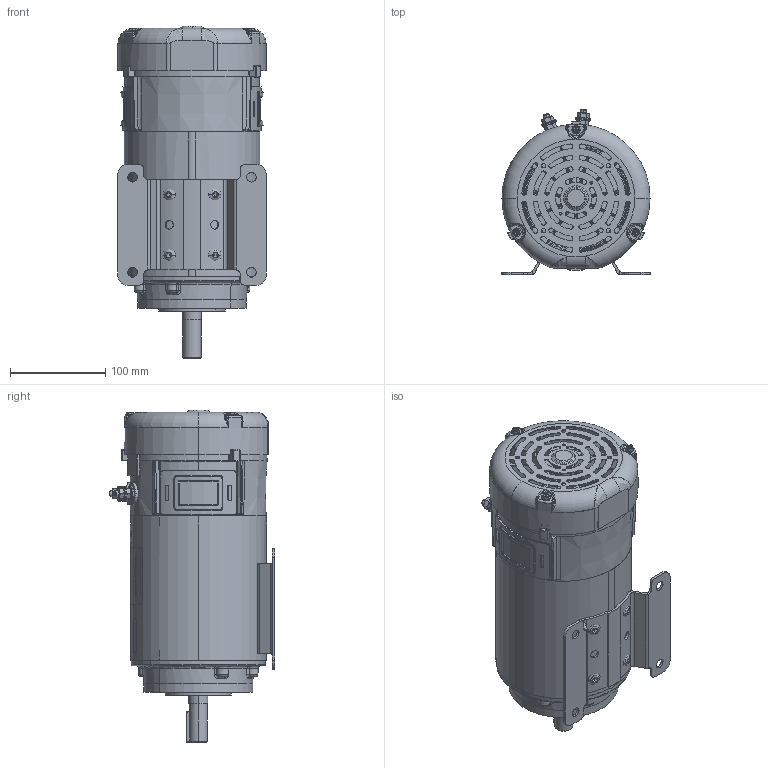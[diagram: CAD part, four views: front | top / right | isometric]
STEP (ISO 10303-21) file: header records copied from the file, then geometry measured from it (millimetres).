
FILE_DESCRIPTION (( 'STEP AP203' ), '1' );
FILE_NAME ('031910-108456_Rev01.STEP', '2018-03-21T08:40:14', ( '' ), ( '' ), 'SwSTEP 2.0', 'SolidWorks 2015', '' );
FILE_SCHEMA (( 'CONFIG_CONTROL_DESIGN' ));
Length unit declared in the file: inch
Products named in the file (1): 031910-108456_Rev01
Bounding box: 155.96 x 174.02 x 349.27 mm (x, y, z)
Volume: 1191188.3 mm3; surface area: 554020 mm2
Topology: 47 solids, 47 shells, 4226 faces, 10402 edges, 6221 vertices
Faces by surface type: cylinder 1235, bspline 1089, plane 1068, cone 387, torus 336, sphere 111
Entity records: 162154 total; most frequent: CARTESIAN_POINT 70824, ORIENTED_EDGE 20474, DIRECTION 17280, EDGE_CURVE 10237, AXIS2_PLACEMENT_3D 6904, VERTEX_POINT 6215, EDGE_LOOP 4516, ADVANCED_FACE 4226
